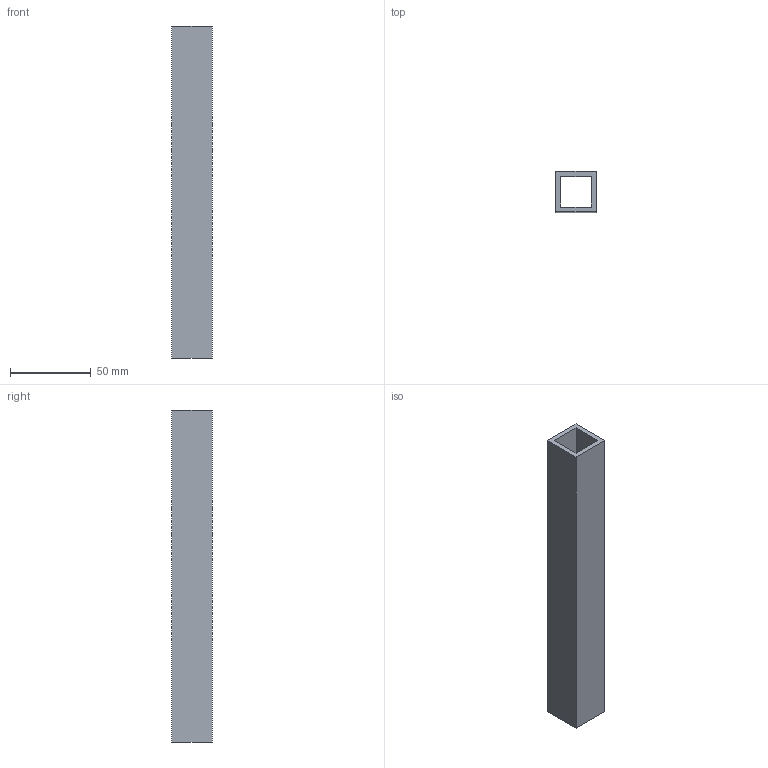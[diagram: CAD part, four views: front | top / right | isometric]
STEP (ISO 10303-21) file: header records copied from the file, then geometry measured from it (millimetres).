
FILE_DESCRIPTION(('Open CASCADE Model'),'2;1');
FILE_NAME('Open CASCADE Shape Model','2026-10-04T01:02:30',('Author'),( 'Open CASCADE'),'Open CASCADE STEP processor 8.0','Open CASCADE 8.0' ,'Unknown');
FILE_SCHEMA(('AUTOMOTIVE_DESIGN { 1 0 10303 214 1 1 1 1 }'));
Length unit declared in the file: millimetre
Products named in the file (1): Open CASCADE STEP translator 8.0 216
Bounding box: 25 x 25 x 205 mm (x, y, z)
Volume: 54120 mm3; surface area: 36608 mm2
Topology: 1 solids, 1 shells, 10 faces, 24 edges, 16 vertices
Faces by surface type: plane 10
Entity records: 598 total; most frequent: CARTESIAN_POINT 115, DIRECTION 78, LINE 56, VECTOR 56, ORIENTED_EDGE 48, PCURVE 48, DEFINITIONAL_REPRESENTATION 48, EDGE_CURVE 24
